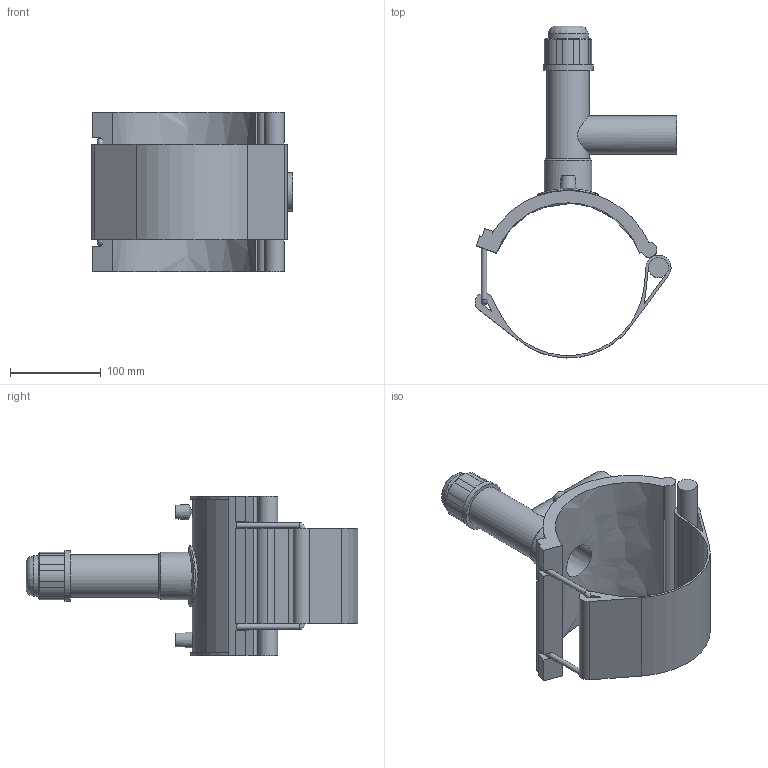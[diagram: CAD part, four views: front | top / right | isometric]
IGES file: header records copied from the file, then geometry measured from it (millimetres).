
Global section: file name: 5913BB03060013.ipt; native system: Autodesk Inventor 2019; preprocessor: unknown; author: KIM; date: 20210830.101038; units: millimetre
Bounding box: 222.34 x 365.32 x 176.02 mm (x, y, z)
Volume: 980113.2 mm3; surface area: 264059.1 mm2
Topology: 2 solids, 2 shells, 124 faces, 314 edges, 195 vertices
Faces by surface type: plane 69, cylinder 29, revolution 12, cone 11, bspline 3
Full cylindrical faces by diameter (mm): 4 x2, 6.048 x2, 21.84 x1, 42.1 x1, 44.083 x1, 46.838 x1, 52.349 x1, 55.104 x1, 67.2 x1
